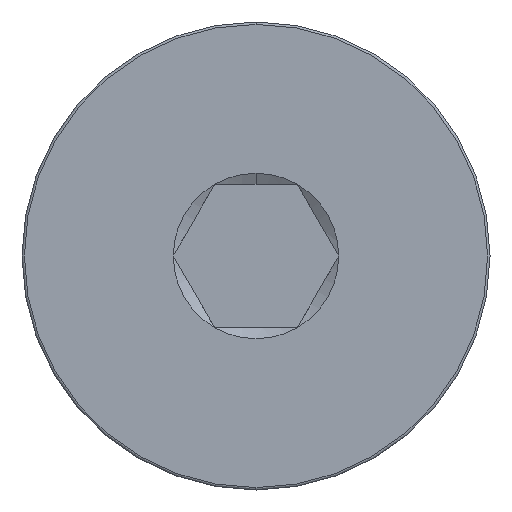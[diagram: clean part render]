
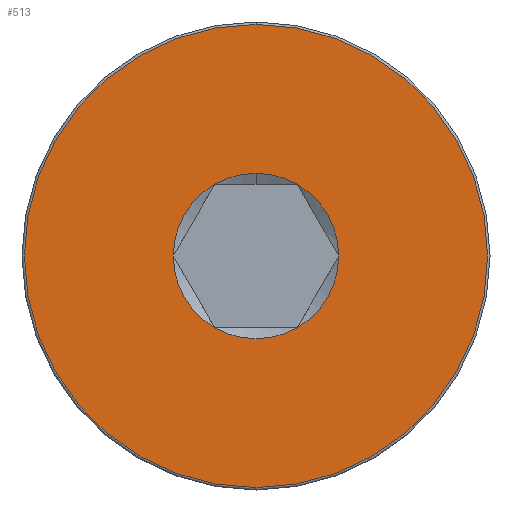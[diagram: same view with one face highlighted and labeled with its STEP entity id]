
A CAD part, left-side view. The second image highlights one B-rep face of the part: STEP entity #513.
In plain terms, the highlighted planar face has unit normal (-1, 0, 0).
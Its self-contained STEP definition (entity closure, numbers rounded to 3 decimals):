
#1 = DIRECTION ( 'NONE',  ( -1., 0., 0. ) ) ;
#9 = EDGE_CURVE ( 'NONE', #772, #119, #32, .T. ) ;
#32 = CIRCLE ( 'NONE', #135, 1.732 ) ;
#36 = ORIENTED_EDGE ( 'NONE', *, *, #248, .T. ) ;
#43 = AXIS2_PLACEMENT_3D ( 'NONE', #255, #743, #303 ) ;
#51 = ORIENTED_EDGE ( 'NONE', *, *, #786, .T. ) ;
#55 = CIRCLE ( 'NONE', #43, 1.732 ) ;
#79 = CARTESIAN_POINT ( 'NONE',  ( 0., 0.866, -1.5 ) ) ;
#82 = EDGE_CURVE ( 'NONE', #768, #254, #180, .T. ) ;
#92 = CARTESIAN_POINT ( 'NONE',  ( 0., 1.732, 0. ) ) ;
#98 = CIRCLE ( 'NONE', #193, 1.732 ) ;
#112 = FACE_BOUND ( 'NONE', #603, .T. ) ;
#119 = VERTEX_POINT ( 'NONE', #433 ) ;
#122 = AXIS2_PLACEMENT_3D ( 'NONE', #305, #564, #554 ) ;
#127 = EDGE_CURVE ( 'NONE', #254, #484, #630, .T. ) ;
#135 = AXIS2_PLACEMENT_3D ( 'NONE', #474, #738, #355 ) ;
#145 = EDGE_LOOP ( 'NONE', ( #51, #36 ) ) ;
#154 = ORIENTED_EDGE ( 'NONE', *, *, #343, .T. ) ;
#161 = ORIENTED_EDGE ( 'NONE', *, *, #260, .T. ) ;
#165 = DIRECTION ( 'NONE',  ( 1., 0., 0. ) ) ;
#180 = CIRCLE ( 'NONE', #122, 1.732 ) ;
#193 = AXIS2_PLACEMENT_3D ( 'NONE', #221, #165, #209 ) ;
#207 = AXIS2_PLACEMENT_3D ( 'NONE', #569, #246, #498 ) ;
#209 = DIRECTION ( 'NONE',  ( 0., 0., -1. ) ) ;
#220 = EDGE_CURVE ( 'NONE', #119, #588, #330, .T. ) ;
#221 = CARTESIAN_POINT ( 'NONE',  ( 0., 0., 0. ) ) ;
#246 = DIRECTION ( 'NONE',  ( 1., 0., 0. ) ) ;
#248 = EDGE_CURVE ( 'NONE', #733, #396, #735, .T. ) ;
#254 = VERTEX_POINT ( 'NONE', #399 ) ;
#255 = CARTESIAN_POINT ( 'NONE',  ( 0., 0., 0. ) ) ;
#260 = EDGE_CURVE ( 'NONE', #484, #638, #383, .T. ) ;
#303 = DIRECTION ( 'NONE',  ( 0., 0., -1. ) ) ;
#305 = CARTESIAN_POINT ( 'NONE',  ( 0., 0., 0. ) ) ;
#326 = CARTESIAN_POINT ( 'NONE',  ( 0., -1.732, 0. ) ) ;
#330 = CIRCLE ( 'NONE', #604, 1.732 ) ;
#332 = CARTESIAN_POINT ( 'NONE',  ( 0., 0., 4.85 ) ) ;
#343 = EDGE_CURVE ( 'NONE', #588, #768, #98, .T. ) ;
#347 = CIRCLE ( 'NONE', #637, 4.85 ) ;
#352 = ORIENTED_EDGE ( 'NONE', *, *, #127, .T. ) ;
#355 = DIRECTION ( 'NONE',  ( 0., 0., -1. ) ) ;
#371 = CARTESIAN_POINT ( 'NONE',  ( 0., 0., 0. ) ) ;
#372 = ORIENTED_EDGE ( 'NONE', *, *, #9, .T. ) ;
#378 = DIRECTION ( 'NONE',  ( 1., 0., 0. ) ) ;
#383 = CIRCLE ( 'NONE', #487, 1.732 ) ;
#396 = VERTEX_POINT ( 'NONE', #332 ) ;
#399 = CARTESIAN_POINT ( 'NONE',  ( 0., 0.866, 1.5 ) ) ;
#400 = ORIENTED_EDGE ( 'NONE', *, *, #220, .T. ) ;
#423 = DIRECTION ( 'NONE',  ( 0., 0., 1. ) ) ;
#433 = CARTESIAN_POINT ( 'NONE',  ( 0., -0.866, -1.5 ) ) ;
#460 = AXIS2_PLACEMENT_3D ( 'NONE', #780, #1, #423 ) ;
#466 = DIRECTION ( 'NONE',  ( -1., 0., 0. ) ) ;
#474 = CARTESIAN_POINT ( 'NONE',  ( 0., 0., 0. ) ) ;
#484 = VERTEX_POINT ( 'NONE', #534 ) ;
#487 = AXIS2_PLACEMENT_3D ( 'NONE', #708, #767, #641 ) ;
#498 = DIRECTION ( 'NONE',  ( 0., 0., -1. ) ) ;
#500 = CARTESIAN_POINT ( 'NONE',  ( 0., -0.866, 1.5 ) ) ;
#510 = DIRECTION ( 'NONE',  ( 0., 0., 1. ) ) ;
#513 = ADVANCED_FACE ( 'NONE', ( #545, #112 ), #665, .T. ) ;
#519 = CARTESIAN_POINT ( 'NONE',  ( 0., 0., -4.85 ) ) ;
#534 = CARTESIAN_POINT ( 'NONE',  ( 0., 0., 1.732 ) ) ;
#545 = FACE_OUTER_BOUND ( 'NONE', #145, .T. ) ;
#546 = ORIENTED_EDGE ( 'NONE', *, *, #82, .T. ) ;
#554 = DIRECTION ( 'NONE',  ( 0., 0., -1. ) ) ;
#564 = DIRECTION ( 'NONE',  ( 1., 0., 0. ) ) ;
#569 = CARTESIAN_POINT ( 'NONE',  ( 0., 0., 0. ) ) ;
#571 = DIRECTION ( 'NONE',  ( -1., 0., 0. ) ) ;
#583 = EDGE_CURVE ( 'NONE', #638, #772, #55, .T. ) ;
#588 = VERTEX_POINT ( 'NONE', #79 ) ;
#603 = EDGE_LOOP ( 'NONE', ( #546, #352, #161, #623, #372, #400, #154 ) ) ;
#604 = AXIS2_PLACEMENT_3D ( 'NONE', #371, #378, #617 ) ;
#617 = DIRECTION ( 'NONE',  ( 0., 0., -1. ) ) ;
#623 = ORIENTED_EDGE ( 'NONE', *, *, #583, .T. ) ;
#630 = CIRCLE ( 'NONE', #207, 1.732 ) ;
#637 = AXIS2_PLACEMENT_3D ( 'NONE', #693, #571, #510 ) ;
#638 = VERTEX_POINT ( 'NONE', #500 ) ;
#641 = DIRECTION ( 'NONE',  ( 0., 0., -1. ) ) ;
#647 = DIRECTION ( 'NONE',  ( 0., 0., 1. ) ) ;
#665 = PLANE ( 'NONE',  #460 ) ;
#693 = CARTESIAN_POINT ( 'NONE',  ( 0., 0., 0. ) ) ;
#708 = CARTESIAN_POINT ( 'NONE',  ( 0., 0., 0. ) ) ;
#709 = AXIS2_PLACEMENT_3D ( 'NONE', #715, #466, #647 ) ;
#715 = CARTESIAN_POINT ( 'NONE',  ( 0., 0., 0. ) ) ;
#733 = VERTEX_POINT ( 'NONE', #519 ) ;
#735 = CIRCLE ( 'NONE', #709, 4.85 ) ;
#738 = DIRECTION ( 'NONE',  ( 1., 0., 0. ) ) ;
#743 = DIRECTION ( 'NONE',  ( 1., 0., 0. ) ) ;
#767 = DIRECTION ( 'NONE',  ( 1., 0., 0. ) ) ;
#768 = VERTEX_POINT ( 'NONE', #92 ) ;
#772 = VERTEX_POINT ( 'NONE', #326 ) ;
#780 = CARTESIAN_POINT ( 'NONE',  ( 0., 0., 0. ) ) ;
#786 = EDGE_CURVE ( 'NONE', #396, #733, #347, .T. ) ;
